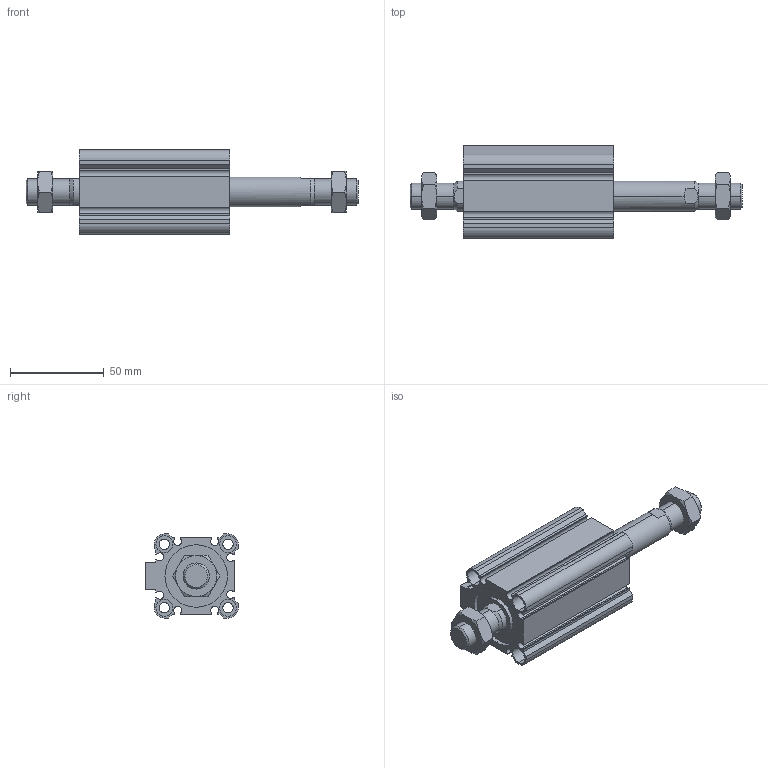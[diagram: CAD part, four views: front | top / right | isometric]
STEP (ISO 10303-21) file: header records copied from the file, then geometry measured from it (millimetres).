
FILE_DESCRIPTION (( 'STEP AP203' ), '1' );
FILE_NAME ('CCMB32-40M-P.STEP', '2020-08-10T11:34:40', ( '' ), ( '' ), 'SwSTEP 2.0', 'SolidWorks 2019', '' );
FILE_SCHEMA (( 'CONFIG_CONTROL_DESIGN' ));
Length unit declared in the file: millimetre
Products named in the file (1): CCMB32-40M-P
Bounding box: 177.5 x 49.5 x 45 mm (x, y, z)
Volume: 127043.9 mm3; surface area: 52798.9 mm2
Topology: 4 solids, 4 shells, 216 faces, 522 edges, 332 vertices
Faces by surface type: plane 94, cylinder 78, cone 44
Entity records: 7009 total; most frequent: CARTESIAN_POINT 1819, DIRECTION 1088, ORIENTED_EDGE 1044, EDGE_CURVE 522, AXIS2_PLACEMENT_3D 413, VERTEX_POINT 332, VECTOR 262, LINE 262
